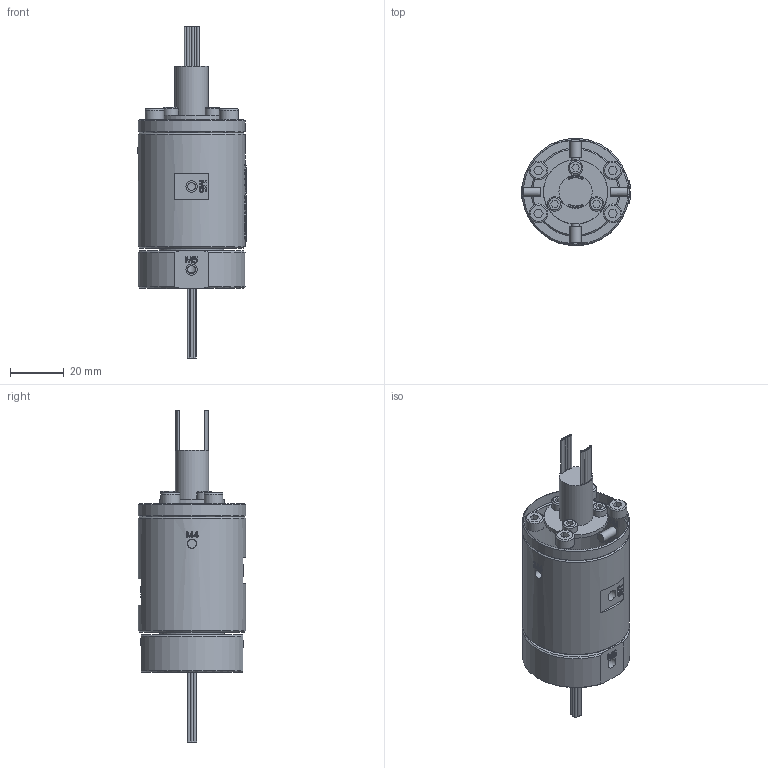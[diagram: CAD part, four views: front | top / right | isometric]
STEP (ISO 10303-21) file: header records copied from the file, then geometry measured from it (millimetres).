
FILE_DESCRIPTION(/* description */ (''),/* implementation_level */ '2;1');
FILE_NAME(/* name */ 'YQ02005-12M.stp',/* time_stamp */ '2025-09-01T09:48:23+08:00',/* author */ (''),/* organization */ (''),/* preprocessor_version */ 'ST-DEVELOPER v16.7',/* originating_system */ 'SIEMENS PLM Software NX 12.0',/* authorisation */ '');
FILE_SCHEMA (('AUTOMOTIVE_DESIGN { 1 0 10303 214 3 1 1 1 }'));
Products named in the file (1): Admi1DF097DFvvru
Bounding box: 40.7 x 40 x 123.9 mm (x, y, z)
Volume: 80514.7 mm3; surface area: 16821.7 mm2
Topology: 1 solids, 9 shells, 1181 faces, 3153 edges, 2101 vertices
Faces by surface type: extrusion 524, plane 493, cylinder 91, bspline 45, cone 21, torus 7
Full cylindrical faces by diameter (mm): 0.8 x24, 3 x7, 3.4 x9, 4 x6, 4.1 x2, 4.2 x6, 5 x1, 5.5 x3, 6 x1, 7 x4, 12.4 x1, 23.9 x1, 24 x1, 32 x1, 40 x2
Entity records: 45171 total; most frequent: CARTESIAN_POINT 20315, ORIENTED_EDGE 6014, EDGE_CURVE 3007, DIRECTION 2979, B_SPLINE_CURVE_WITH_KNOTS 2639, VERTEX_POINT 2056, EDGE_LOOP 1409, ADVANCED_FACE 1181
